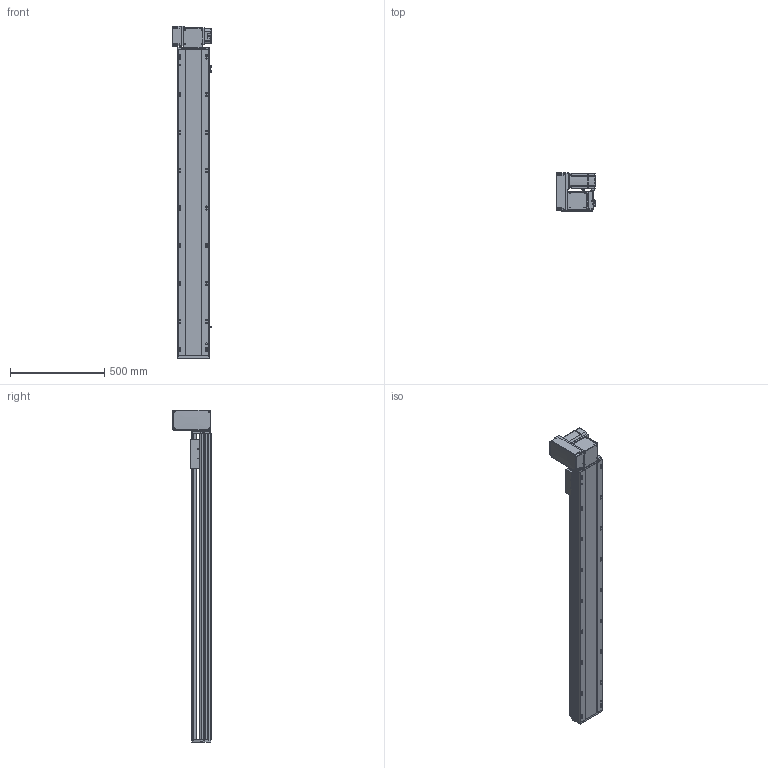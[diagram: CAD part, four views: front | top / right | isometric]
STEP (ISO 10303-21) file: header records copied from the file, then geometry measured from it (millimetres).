
FILE_DESCRIPTION (( 'STEP AP214' ), '1' );
FILE_NAME ('RTB17S-XX-1350-LW-M75-C4.STEP', '2025-12-12T01:06:24', ( '' ), ( '' ), 'SwSTEP 2.0', 'SolidWorks 2018', '' );
FILE_SCHEMA (( 'AUTOMOTIVE_DESIGN' ));
Length unit declared in the file: millimetre
Products named in the file (15): 750W萇儂^RTB17S-XX-XX-LW-M75-C4; RTB17S-L-004-賑釱^RTB17S-賑釱_RTB17S-XX-XX-LW-M75-C4; RTB22S-GY-017P^RTB17S-LW-々湍釱蚾饜-750W_RTB17S-XX-XX-LW-M75-C4; EE672^RTB17S-XX-XX-LW-M75-C4; RTB17S-XX-1350-LW-M75-C4; RTB22S-GY-008-M75--萇儂啣^RTB17S-LW-々湍釱蚾饜-750W_RTB17S-XX-XX-LW-M75-C4; RTB22S-GY-005P^RTB17S-LW-々湍釱蚾饜-750W_RTB17S-XX-XX-LW-M75-C4; RTB17S-LW-々湍釱蚾饜-750W^RTB17S-XX-XX-LW-M75-C4; RTB17S-賑釱^RTB17S-XX-XX-LW-M75-C4; RTB17S-L-014-T20-P75--々湍釱^RTB17S-LW-々湍釱蚾饜-750W_RTB17S-XX-XX-LW-M75-C4; RTB17-R-011菁釱^RTB17S-XX-XX-LW-M75-C4; RTB22S-GY-018P^RTB17S-LW-々湍釱蚾饜-750W_RTB17S-XX-XX-LW-M75-C4; RTH13-BL-012覜茼え俋离^RTB17S-賑釱_RTB17S-XX-XX-LW-M75-C4; RTB17S-L-001-耜醱啣^RTB17S-XX-XX-LW-M75-C4; RTB17S-L-007奻裔^RTB17S-XX-XX-LW-M75-C4
Assembly tree (17 placements, depth 3):
  RTB17S-XX-1350-LW-M75-C4
    RTB17-R-011菁釱^RTB17S-XX-XX-LW-M75-C4
    EE672^RTB17S-XX-XX-LW-M75-C4  x3
    RTB17S-L-001-耜醱啣^RTB17S-XX-XX-LW-M75-C4
    RTB17S-賑釱^RTB17S-XX-XX-LW-M75-C4
      RTB17S-L-004-賑釱^RTB17S-賑釱_RTB17S-XX-XX-LW-M75-C4
      RTH13-BL-012覜茼え俋离^RTB17S-賑釱_RTB17S-XX-XX-LW-M75-C4
    RTB17S-L-007奻裔^RTB17S-XX-XX-LW-M75-C4
    750W萇儂^RTB17S-XX-XX-LW-M75-C4
    RTB17S-LW-々湍釱蚾饜-750W^RTB17S-XX-XX-LW-M75-C4
      RTB17S-L-014-T20-P75--々湍釱^RTB17S-LW-々湍釱蚾饜-750W_RTB17S-XX-XX-LW-M75-C4
      RTB22S-GY-005P^RTB17S-LW-々湍釱蚾饜-750W_RTB17S-XX-XX-LW-M75-C4
      RTB22S-GY-017P^RTB17S-LW-々湍釱蚾饜-750W_RTB17S-XX-XX-LW-M75-C4  x2
      RTB22S-GY-008-M75--萇儂啣^RTB17S-LW-々湍釱蚾饜-750W_RTB17S-XX-XX-LW-M75-C4
      RTB22S-GY-018P^RTB17S-LW-々湍釱蚾饜-750W_RTB17S-XX-XX-LW-M75-C4
Bounding box: 210.4 x 201.5 x 1757.5 mm (x, y, z)
Volume: 14389044.7 mm3; surface area: 2500834.3 mm2
Topology: 17 solids, 17 shells, 2121 faces, 5890 edges, 3806 vertices
Faces by surface type: plane 974, cylinder 731, bspline 294, cone 110, sphere 8, torus 4
Entity records: 59638 total; most frequent: CARTESIAN_POINT 17554, ORIENTED_EDGE 8624, DIRECTION 8042, EDGE_CURVE 4312, AXIS2_PLACEMENT_3D 2826, VERTEX_POINT 2810, VECTOR 2390, LINE 2390
